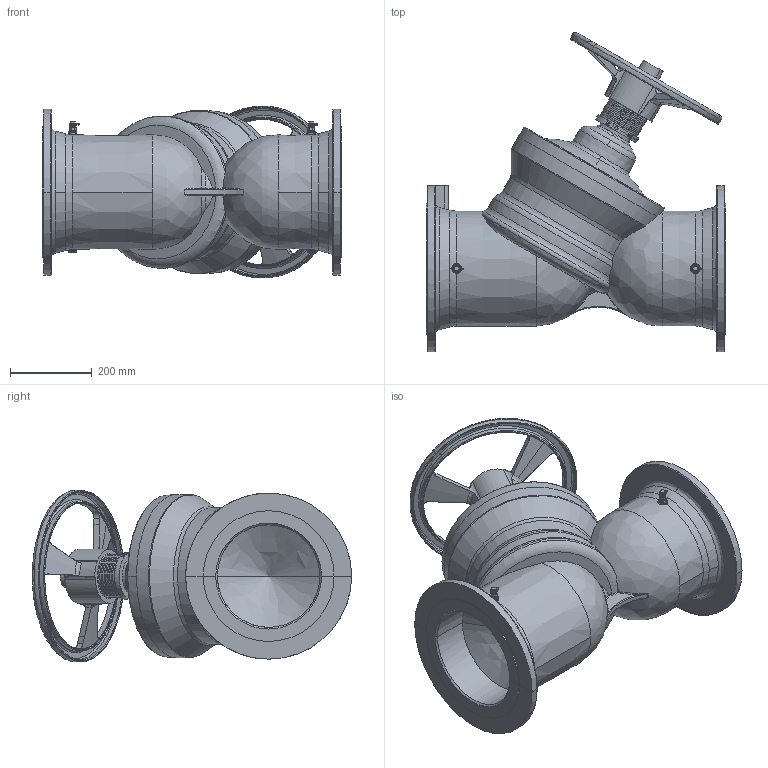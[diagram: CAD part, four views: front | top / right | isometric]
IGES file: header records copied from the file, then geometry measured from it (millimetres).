
Global section: file name: No Iges File Name specified; native system: AutoDesk Inventor R12.0; preprocessor: AutoDesk Inventor Iges Exporter R12.0; date: 20110301.140032; units: millimetre
Bounding box: 730 x 778.85 x 419.31 mm (x, y, z)
Volume: 53068386.7 mm3; surface area: 2015520.7 mm2
Topology: 1 solids, 3 shells, 981 faces, 2575 edges, 1686 vertices
Faces by surface type: plane 343, bspline 321, cylinder 118, revolution 92, cone 64, torus 43
Full cylindrical faces by diameter (mm): 319 x1, 319.004 x1
